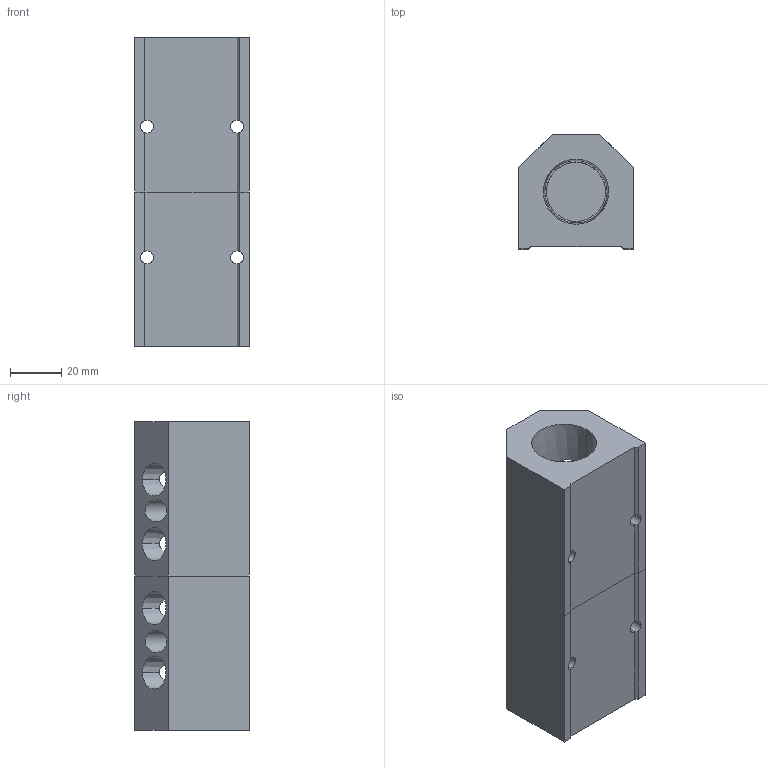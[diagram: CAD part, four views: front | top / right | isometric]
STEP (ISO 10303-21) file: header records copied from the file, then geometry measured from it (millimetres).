
FILE_DESCRIPTION (( 'STEP AP214' ), '1' );
FILE_NAME ('ALM4BCD-N4N12-120RB.step', '2022-02-06T14:18:39', ( '' ), ( '' ), 'SwSTEP 2.0', 'SolidWorks 2020', '' );
FILE_SCHEMA (( 'AUTOMOTIVE_DESIGN' ));
Length unit declared in the file: millimetre
Products named in the file (1): ALM4BCD-N4N12-120RB
Bounding box: 44.5 x 44.5 x 120 mm (x, y, z)
Volume: 141653.1 mm3; surface area: 39887.5 mm2
Topology: 2 solids, 2 shells, 386 faces, 1049 edges, 694 vertices
Faces by surface type: plane 250, bspline 64, cone 38, cylinder 34
Entity records: 21012 total; most frequent: CARTESIAN_POINT 8090, ORIENTED_EDGE 2098, DIRECTION 1551, EDGE_CURVE 1049, LINE 713, VECTOR 713, VERTEX_POINT 694, EDGE_LOOP 445
